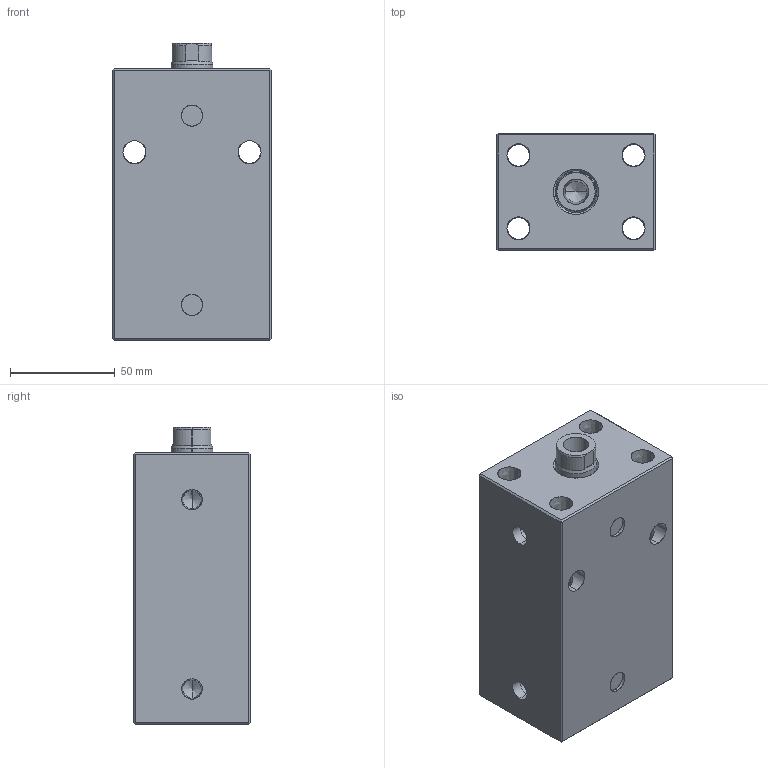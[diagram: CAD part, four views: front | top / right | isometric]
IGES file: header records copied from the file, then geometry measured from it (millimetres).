
Start section: SolidWorks IGES file using analytic representation for surfaces
Global section: file name: E:\ALL-SSVT-BLOCK\32-bore-igs model\BC04-32-50-F.IGS; native system: SolidWorks 2019; preprocessor: SolidWorks 2019; author: SSVT; date: 210825.123123; units: millimetre
Bounding box: 76 x 56 x 142 mm (x, y, z)
Surface area: 78722.1 mm2 (no closed solid volume)
Topology: 0 solids, 0 shells, 99 faces, 1669 edges, 1663 vertices
Faces by surface type: revolution 64, bspline 35
